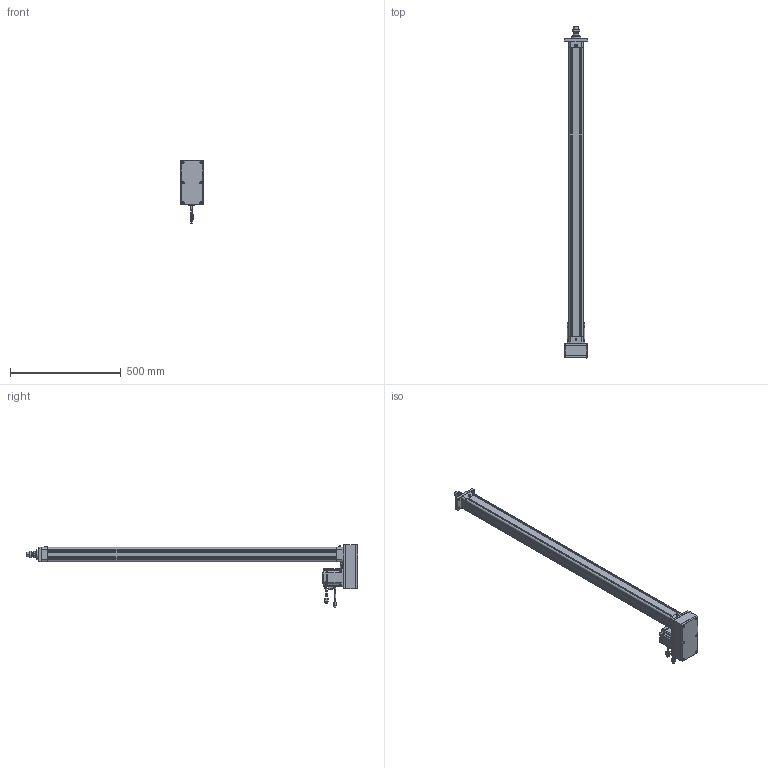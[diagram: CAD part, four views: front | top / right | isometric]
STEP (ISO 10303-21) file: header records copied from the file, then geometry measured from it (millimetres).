
FILE_DESCRIPTION((''),'2;1');
FILE_NAME('ASM0001_ASM','2020-04-16T',('ASUS20200'),(''),'CREO PARAMETRIC BY PTC INC, 2014190','CREO PARAMETRIC BY PTC INC, 2014190','');
FILE_SCHEMA(('CONFIG_CONTROL_DESIGN'));
Length unit declared in the file: millimetre
Products named in the file (31): HE50-D-P-001-X1; HE50-D-P-002-X1; HE50-D-P-003-X1; 6301ZZ; LGLM-M8-22; SLM-01; YZ-M6X1; HE50-P-010-X1-400W; _MHMF082L1A2; _CABLE_MOTOR_BOTTOM_05; _CABLE_MOTOR_TOP_05; _MOTOR_CONNECTOR_2; _CABLE_BRAKE_BOTTOM_05; _CABLE_BRAKE_TOP_05; _MHMF_CONNECTOR_9_PIN_A6; MHMF082L1A2M2_1_ASM; TD-6; M6X25; LM-M6X1; JX6X6X20; M6X25-DS; LM-M6-15; HE50-P-012-X1; HE50-P-013-X1; M6X60; HE50-D-P-005-X1; HE50-D-P-004-X1; HE50-D-P-008-X1; F-SE50FA; M8X16; ASM0001_ASM
Assembly tree (55 placements, depth 3):
  ASM0001_ASM
    HE50-D-P-001-X1
    HE50-D-P-002-X1
    HE50-D-P-003-X1
    6301ZZ
    LGLM-M8-22  x8
    SLM-01
    YZ-M6X1
    HE50-P-010-X1-400W
    MHMF082L1A2M2_1_ASM
      _MHMF082L1A2
      _CABLE_MOTOR_BOTTOM_05
      _CABLE_MOTOR_TOP_05
      _MOTOR_CONNECTOR_2
      _CABLE_BRAKE_BOTTOM_05
      _CABLE_BRAKE_TOP_05
      _MHMF_CONNECTOR_9_PIN_A6
    TD-6  x4
    M6X25  x4
    LM-M6X1  x5
    JX6X6X20
    M6X25-DS
    LM-M6-15
    HE50-P-012-X1
    HE50-P-013-X1
    M6X60  x6
    HE50-D-P-005-X1
    HE50-D-P-004-X1
    HE50-D-P-008-X1
    F-SE50FA
    M8X16  x4
Bounding box: 108 x 1498.5 x 283.65 mm (x, y, z)
Volume: 3720913.7 mm3; surface area: 1113300.8 mm2
Topology: 54 solids, 84 shells, 2871 faces, 6873 edges, 4270 vertices
Faces by surface type: plane 1216, cylinder 785, cone 671, torus 154, sphere 42, bspline 3
Entity records: 67975 total; most frequent: CARTESIAN_POINT 12752, DIRECTION 12169, ORIENTED_EDGE 10782, EDGE_CURVE 5441, AXIS2_PLACEMENT_3D 4570, VERTEX_POINT 3411, VECTOR 3029, LINE 3029
